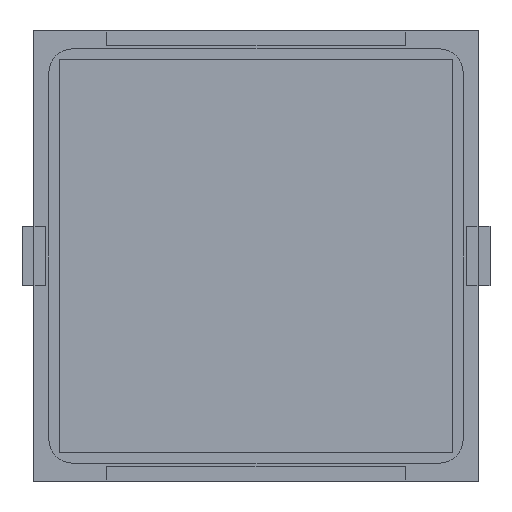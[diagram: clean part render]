
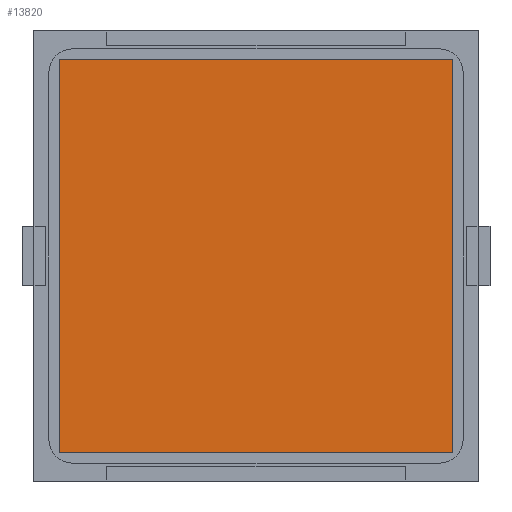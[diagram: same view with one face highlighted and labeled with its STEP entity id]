
A CAD part, front view. The second image highlights one B-rep face of the part: STEP entity #13820.
In plain terms, the highlighted planar face has unit normal (0, -1, 0).
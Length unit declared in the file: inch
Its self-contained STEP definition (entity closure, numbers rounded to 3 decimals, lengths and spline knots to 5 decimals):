
#402 = CARTESIAN_POINT ( 'NONE',  ( 0.64961, -0.005, -0.64961 ) ) ;
#426 = VECTOR ( 'NONE', #10295, 39.37008 ) ;
#1570 = VECTOR ( 'NONE', #10121, 39.37008 ) ;
#2321 = DIRECTION ( 'NONE',  ( 0., 0., 1. ) ) ;
#2480 = PLANE ( 'NONE',  #14942 ) ;
#2505 = CARTESIAN_POINT ( 'NONE',  ( 0.64961, -0.005, 0.64961 ) ) ;
#2592 = EDGE_LOOP ( 'NONE', ( #13074, #13174, #13462, #10469 ) ) ;
#2820 = EDGE_CURVE ( 'NONE', #5557, #3261, #8533, .T. ) ;
#2984 = VERTEX_POINT ( 'NONE', #3049 ) ;
#3049 = CARTESIAN_POINT ( 'NONE',  ( 0.64961, -0.005, 0.64961 ) ) ;
#3060 = VERTEX_POINT ( 'NONE', #402 ) ;
#3261 = VERTEX_POINT ( 'NONE', #7601 ) ;
#4265 = LINE ( 'NONE', #9387, #11158 ) ;
#4769 = DIRECTION ( 'NONE',  ( 1., 0., 0. ) ) ;
#5557 = VERTEX_POINT ( 'NONE', #14884 ) ;
#5837 = EDGE_CURVE ( 'NONE', #3060, #2984, #4265, .T. ) ;
#6280 = CARTESIAN_POINT ( 'NONE',  ( 0.64961, -0.005, 0.64961 ) ) ;
#7601 = CARTESIAN_POINT ( 'NONE',  ( -0.64961, -0.005, -0.64961 ) ) ;
#8533 = LINE ( 'NONE', #8607, #1570 ) ;
#8607 = CARTESIAN_POINT ( 'NONE',  ( -0.64961, -0.005, -0.64961 ) ) ;
#9387 = CARTESIAN_POINT ( 'NONE',  ( 0.64961, -0.005, -0.64961 ) ) ;
#9561 = DIRECTION ( 'NONE',  ( 0., 0., 1. ) ) ;
#10121 = DIRECTION ( 'NONE',  ( 0., 0., -1. ) ) ;
#10123 = LINE ( 'NONE', #11179, #16337 ) ;
#10295 = DIRECTION ( 'NONE',  ( -1., 0., 0. ) ) ;
#10469 = ORIENTED_EDGE ( 'NONE', *, *, #11484, .T. ) ;
#11158 = VECTOR ( 'NONE', #9561, 39.37008 ) ;
#11179 = CARTESIAN_POINT ( 'NONE',  ( 0.64961, -0.005, -0.64961 ) ) ;
#11264 = FACE_OUTER_BOUND ( 'NONE', #2592, .T. ) ;
#11484 = EDGE_CURVE ( 'NONE', #3261, #3060, #10123, .T. ) ;
#12765 = LINE ( 'NONE', #2505, #426 ) ;
#13074 = ORIENTED_EDGE ( 'NONE', *, *, #5837, .T. ) ;
#13174 = ORIENTED_EDGE ( 'NONE', *, *, #14619, .T. ) ;
#13462 = ORIENTED_EDGE ( 'NONE', *, *, #2820, .T. ) ;
#13820 = ADVANCED_FACE ( 'NONE', ( #11264 ), #2480, .T. ) ;
#14619 = EDGE_CURVE ( 'NONE', #2984, #5557, #12765, .T. ) ;
#14851 = DIRECTION ( 'NONE',  ( 0., -1., 0. ) ) ;
#14884 = CARTESIAN_POINT ( 'NONE',  ( -0.64961, -0.005, 0.64961 ) ) ;
#14942 = AXIS2_PLACEMENT_3D ( 'NONE', #6280, #14851, #2321 ) ;
#16337 = VECTOR ( 'NONE', #4769, 39.37008 ) ;
